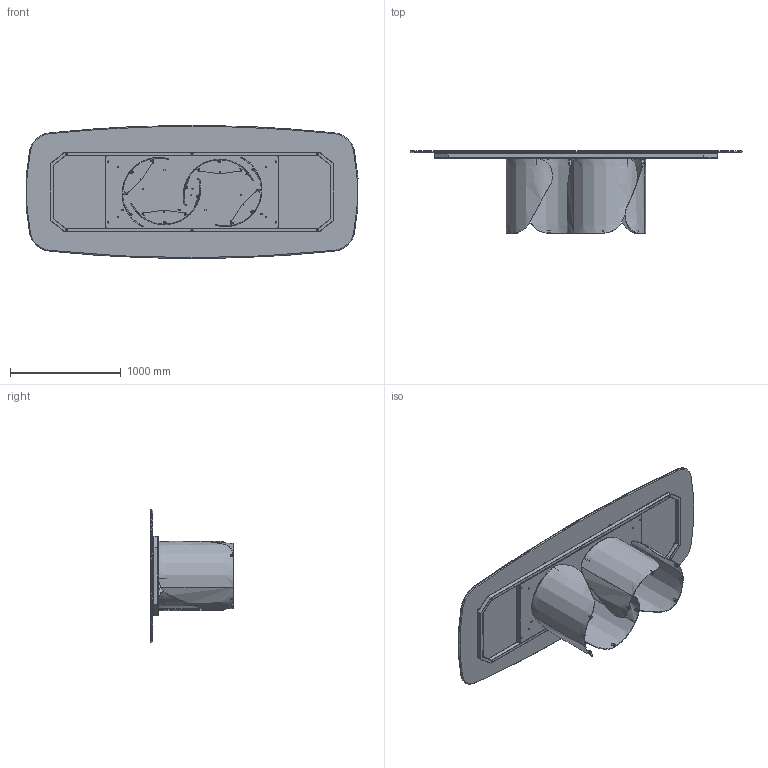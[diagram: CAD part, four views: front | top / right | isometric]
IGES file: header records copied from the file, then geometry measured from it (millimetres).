
Start section: SolidWorks IGES file using analytic representation for surfaces
Global section: file name: Y:\eforma\TECNICO\SOLIDWORKS\E-FORMA\1-TAVOLI\ONDA\02 parts\ON44C.IGS; native system: SolidWorks 2022; preprocessor: SolidWorks 2022; author: eforma.tech; date: 240806.154354; units: millimetre
Bounding box: 2991.72 x 742 x 1200 mm (x, y, z)
Volume: 71074449.5 mm3; surface area: 22117293.7 mm2
Topology: 84 solids, 84 shells, 1941 faces, 4441 edges, 2702 vertices
Faces by surface type: revolution 1143, plane 718, bspline 80
